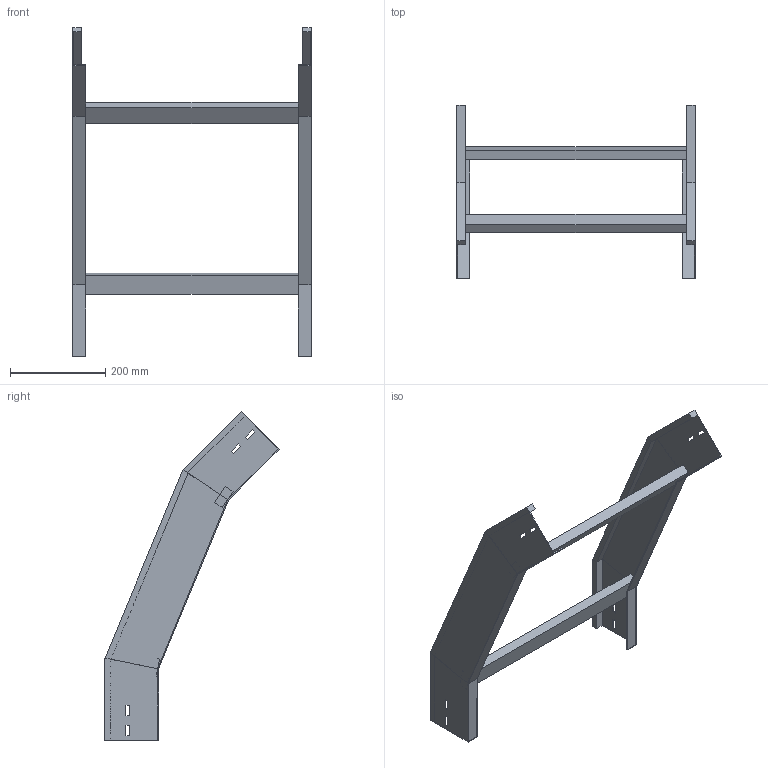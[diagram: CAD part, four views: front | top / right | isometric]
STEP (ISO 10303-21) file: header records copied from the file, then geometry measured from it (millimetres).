
FILE_DESCRIPTION (( 'STEP AP214' ), '1' );
FILE_NAME ('34B5J500.step', '2025-02-21T14:52:46', ( '' ), ( '' ), 'SwSTEP 2.0', 'SolidWorks 2023', '' );
FILE_SCHEMA (( 'AUTOMOTIVE_DESIGN' ));
Length unit declared in the file: millimetre
Products named in the file (3): LONGH.DISCESA_45°_H112.5_R500; 34B5J500; TRAVERSINO_500
Assembly tree (5 placements, depth 2):
  34B5J500
    LONGH.DISCESA_45°_H112.5_R500  x2
    TRAVERSINO_500  x3
Bounding box: 500 x 365.13 x 689.46 mm (x, y, z)
Volume: 1893496.3 mm3; surface area: 636066.6 mm2
Topology: 5 solids, 5 shells, 102 faces, 244 edges, 152 vertices
Faces by surface type: plane 102
Entity records: 1480 total; most frequent: CARTESIAN_POINT 244, ORIENTED_EDGE 232, DIRECTION 228, LINE 116, VECTOR 116, EDGE_CURVE 116, VERTEX_POINT 72, EDGE_LOOP 56
